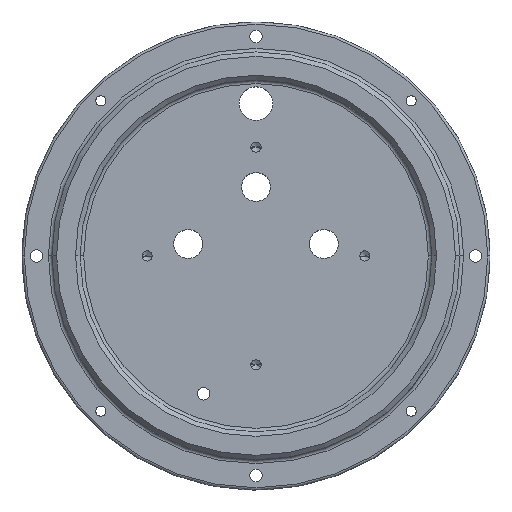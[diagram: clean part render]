
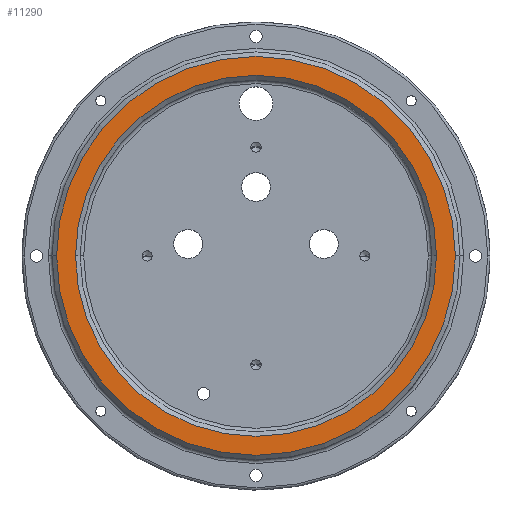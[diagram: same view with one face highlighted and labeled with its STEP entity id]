
A CAD part, top view. The second image highlights one B-rep face of the part: STEP entity #11290.
In plain terms, the highlighted planar face has unit normal (0, 0, 1).
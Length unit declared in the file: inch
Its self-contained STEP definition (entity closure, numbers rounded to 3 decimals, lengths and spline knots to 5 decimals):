
#376 = AXIS2_PLACEMENT_3D ( 'NONE', #9415, #14064, #5053 ) ;
#1765 = CIRCLE ( 'NONE', #5237, 2.7485 ) ;
#2021 = CARTESIAN_POINT ( 'NONE',  ( 0., 0., 1.4 ) ) ;
#2606 = DIRECTION ( 'NONE',  ( 1., 0., 0. ) ) ;
#2646 = CARTESIAN_POINT ( 'NONE',  ( 0., 0., 1.4 ) ) ;
#2723 = CARTESIAN_POINT ( 'NONE',  ( -2.4875, 0., 1.4 ) ) ;
#2872 = FACE_BOUND ( 'NONE', #13249, .T. ) ;
#3177 = DIRECTION ( 'NONE',  ( 0., 0., -1. ) ) ;
#3244 = CARTESIAN_POINT ( 'NONE',  ( -2.7485, 0., 1.4 ) ) ;
#3521 = CARTESIAN_POINT ( 'NONE',  ( 0., 0., 1.4 ) ) ;
#3797 = CARTESIAN_POINT ( 'NONE',  ( 2.7485, 0., 1.4 ) ) ;
#3888 = FACE_OUTER_BOUND ( 'NONE', #7301, .T. ) ;
#4104 = CIRCLE ( 'NONE', #11537, 2.4875 ) ;
#4339 = ORIENTED_EDGE ( 'NONE', *, *, #5368, .T. ) ;
#4536 = CIRCLE ( 'NONE', #4772, 2.7485 ) ;
#4772 = AXIS2_PLACEMENT_3D ( 'NONE', #13884, #12561, #2606 ) ;
#4904 = DIRECTION ( 'NONE',  ( 1., 0., 0. ) ) ;
#5053 = DIRECTION ( 'NONE',  ( 1., 0., 0. ) ) ;
#5237 = AXIS2_PLACEMENT_3D ( 'NONE', #3521, #13560, #4904 ) ;
#5368 = EDGE_CURVE ( 'NONE', #13056, #9254, #4536, .T. ) ;
#6224 = EDGE_CURVE ( 'NONE', #9556, #7572, #13161, .T. ) ;
#7075 = DIRECTION ( 'NONE',  ( 1., 0., 0. ) ) ;
#7299 = PLANE ( 'NONE',  #376 ) ;
#7301 = EDGE_LOOP ( 'NONE', ( #4339, #13252 ) ) ;
#7457 = DIRECTION ( 'NONE',  ( 1., 0., 0. ) ) ;
#7572 = VERTEX_POINT ( 'NONE', #2723 ) ;
#9254 = VERTEX_POINT ( 'NONE', #3797 ) ;
#9415 = CARTESIAN_POINT ( 'NONE',  ( 0., 0., 1.4 ) ) ;
#9556 = VERTEX_POINT ( 'NONE', #11619 ) ;
#10616 = ORIENTED_EDGE ( 'NONE', *, *, #6224, .T. ) ;
#10923 = ORIENTED_EDGE ( 'NONE', *, *, #13530, .T. ) ;
#11201 = EDGE_CURVE ( 'NONE', #9254, #13056, #1765, .T. ) ;
#11290 = ADVANCED_FACE ( 'NONE', ( #2872, #3888 ), #7299, .T. ) ;
#11537 = AXIS2_PLACEMENT_3D ( 'NONE', #2646, #13774, #7075 ) ;
#11619 = CARTESIAN_POINT ( 'NONE',  ( 2.4875, 0., 1.4 ) ) ;
#12561 = DIRECTION ( 'NONE',  ( 0., 0., 1. ) ) ;
#13056 = VERTEX_POINT ( 'NONE', #3244 ) ;
#13161 = CIRCLE ( 'NONE', #14097, 2.4875 ) ;
#13249 = EDGE_LOOP ( 'NONE', ( #10616, #10923 ) ) ;
#13252 = ORIENTED_EDGE ( 'NONE', *, *, #11201, .T. ) ;
#13530 = EDGE_CURVE ( 'NONE', #7572, #9556, #4104, .T. ) ;
#13560 = DIRECTION ( 'NONE',  ( 0., 0., 1. ) ) ;
#13774 = DIRECTION ( 'NONE',  ( 0., 0., -1. ) ) ;
#13884 = CARTESIAN_POINT ( 'NONE',  ( 0., 0., 1.4 ) ) ;
#14064 = DIRECTION ( 'NONE',  ( 0., 0., 1. ) ) ;
#14097 = AXIS2_PLACEMENT_3D ( 'NONE', #2021, #3177, #7457 ) ;
